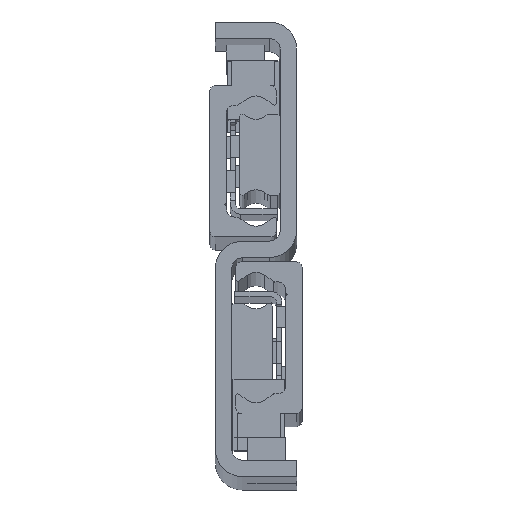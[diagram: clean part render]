
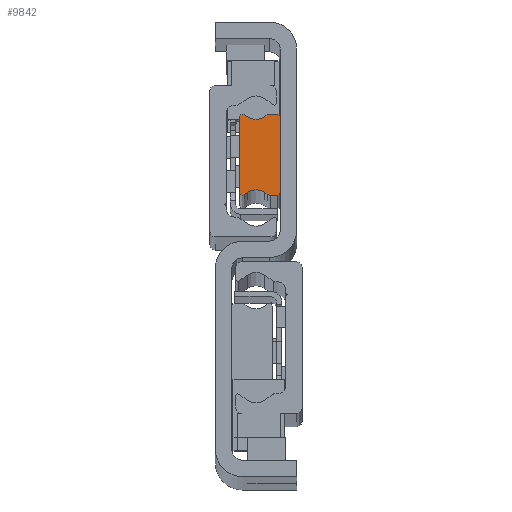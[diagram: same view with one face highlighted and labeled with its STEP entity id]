
A CAD part, top view. The second image highlights one B-rep face of the part: STEP entity #9842.
In plain terms, the highlighted planar face has unit normal (0, 0, 1) as drawn and (0, 0, -1) by its records, which use the part's own axes.
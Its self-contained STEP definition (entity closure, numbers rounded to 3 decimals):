
#32 = CARTESIAN_POINT ( 'NONE',  ( 0.5, 7.5, 0. ) ) ;
#55 = DIRECTION ( 'NONE',  ( 0., 0., 1. ) ) ;
#83 = DIRECTION ( 'NONE',  ( 0., 0., -1. ) ) ;
#393 = EDGE_CURVE ( 'NONE', #2619, #818, #8157, .T. ) ;
#394 = DIRECTION ( 'NONE',  ( -1., 0., 0. ) ) ;
#720 = ORIENTED_EDGE ( 'NONE', *, *, #5635, .F. ) ;
#818 = VERTEX_POINT ( 'NONE', #12456 ) ;
#917 = AXIS2_PLACEMENT_3D ( 'NONE', #10786, #6678, #8044 ) ;
#939 = AXIS2_PLACEMENT_3D ( 'NONE', #8628, #83, #10064 ) ;
#950 = DIRECTION ( 'NONE',  ( -1., 0., 0. ) ) ;
#1281 = CIRCLE ( 'NONE', #4437, 0.5 ) ;
#1397 = ORIENTED_EDGE ( 'NONE', *, *, #2196, .F. ) ;
#1458 = DIRECTION ( 'NONE',  ( 0., 1., 0. ) ) ;
#1675 = VECTOR ( 'NONE', #7612, 1000. ) ;
#1721 = ORIENTED_EDGE ( 'NONE', *, *, #14000, .F. ) ;
#2196 = EDGE_CURVE ( 'NONE', #17350, #8832, #4112, .T. ) ;
#2229 = CARTESIAN_POINT ( 'NONE',  ( 0., 7., 0. ) ) ;
#2276 = CARTESIAN_POINT ( 'NONE',  ( 0., -7., 0. ) ) ;
#2412 = AXIS2_PLACEMENT_3D ( 'NONE', #10162, #55, #18473 ) ;
#2479 = ORIENTED_EDGE ( 'NONE', *, *, #4412, .F. ) ;
#2525 = CARTESIAN_POINT ( 'NONE',  ( 6.677, -7.405, 0. ) ) ;
#2619 = VERTEX_POINT ( 'NONE', #14116 ) ;
#3112 = ORIENTED_EDGE ( 'NONE', *, *, #393, .F. ) ;
#3191 = CARTESIAN_POINT ( 'NONE',  ( 0.5, -7., 0. ) ) ;
#3208 = DIRECTION ( 'NONE',  ( 0., 0., 1. ) ) ;
#3678 = VERTEX_POINT ( 'NONE', #15281 ) ;
#3820 = ORIENTED_EDGE ( 'NONE', *, *, #15814, .F. ) ;
#3952 = CIRCLE ( 'NONE', #10514, 0.5 ) ;
#4112 = LINE ( 'NONE', #4613, #1675 ) ;
#4133 = CARTESIAN_POINT ( 'NONE',  ( 0.5, 7.5, 0. ) ) ;
#4239 = VERTEX_POINT ( 'NONE', #8090 ) ;
#4412 = EDGE_CURVE ( 'NONE', #8285, #15807, #1281, .T. ) ;
#4420 = ORIENTED_EDGE ( 'NONE', *, *, #8113, .F. ) ;
#4437 = AXIS2_PLACEMENT_3D ( 'NONE', #7153, #11267, #17135 ) ;
#4606 = DIRECTION ( 'NONE',  ( 1., 0., 0. ) ) ;
#4613 = CARTESIAN_POINT ( 'NONE',  ( 2.446, 7.319, 0. ) ) ;
#4644 = CARTESIAN_POINT ( 'NONE',  ( 0., -7., 0. ) ) ;
#4709 = EDGE_CURVE ( 'NONE', #4239, #14047, #10362, .T. ) ;
#4757 = CARTESIAN_POINT ( 'NONE',  ( 2.446, 7.319, 0. ) ) ;
#4779 = DIRECTION ( 'NONE',  ( -1., 0., 0. ) ) ;
#4929 = EDGE_CURVE ( 'NONE', #7299, #8453, #8773, .T. ) ;
#4978 = ORIENTED_EDGE ( 'NONE', *, *, #12661, .F. ) ;
#5468 = DIRECTION ( 'NONE',  ( 0., -1., 0. ) ) ;
#5635 = EDGE_CURVE ( 'NONE', #5744, #2619, #6109, .T. ) ;
#5744 = VERTEX_POINT ( 'NONE', #14734 ) ;
#5800 = DIRECTION ( 'NONE',  ( 0.819, -0.574, 0. ) ) ;
#5917 = DIRECTION ( 'NONE',  ( 0., 0., -1. ) ) ;
#5951 = CIRCLE ( 'NONE', #8134, 0.523 ) ;
#6012 = DIRECTION ( 'NONE',  ( 0.819, 0.574, 0. ) ) ;
#6109 = CIRCLE ( 'NONE', #6251, 1. ) ;
#6251 = AXIS2_PLACEMENT_3D ( 'NONE', #7588, #10185, #4779 ) ;
#6499 = ORIENTED_EDGE ( 'NONE', *, *, #4709, .F. ) ;
#6586 = VECTOR ( 'NONE', #15338, 1000. ) ;
#6678 = DIRECTION ( 'NONE',  ( 0., 0., -1. ) ) ;
#7034 = LINE ( 'NONE', #15709, #7698 ) ;
#7153 = CARTESIAN_POINT ( 'NONE',  ( 0.5, 7., 0. ) ) ;
#7299 = VERTEX_POINT ( 'NONE', #14442 ) ;
#7362 = LINE ( 'NONE', #17661, #10698 ) ;
#7588 = CARTESIAN_POINT ( 'NONE',  ( 1.873, -6.5, 0. ) ) ;
#7612 = DIRECTION ( 'NONE',  ( -0.819, 0.574, 0. ) ) ;
#7698 = VECTOR ( 'NONE', #5800, 1000. ) ;
#7929 = CARTESIAN_POINT ( 'NONE',  ( 0.5, -7.5, 0. ) ) ;
#8044 = DIRECTION ( 'NONE',  ( 1., 0., 0. ) ) ;
#8090 = CARTESIAN_POINT ( 'NONE',  ( 6.677, 7.405, 0. ) ) ;
#8113 = EDGE_CURVE ( 'NONE', #15857, #5744, #7362, .T. ) ;
#8134 = AXIS2_PLACEMENT_3D ( 'NONE', #17984, #15125, #950 ) ;
#8157 = LINE ( 'NONE', #13095, #18199 ) ;
#8250 = VERTEX_POINT ( 'NONE', #2525 ) ;
#8285 = VERTEX_POINT ( 'NONE', #32 ) ;
#8287 = CARTESIAN_POINT ( 'NONE',  ( 6.093, 6.997, 0. ) ) ;
#8453 = VERTEX_POINT ( 'NONE', #14622 ) ;
#8497 = EDGE_CURVE ( 'NONE', #818, #3678, #11141, .T. ) ;
#8564 = FACE_OUTER_BOUND ( 'NONE', #17542, .T. ) ;
#8628 = CARTESIAN_POINT ( 'NONE',  ( 6.977, 6.977, 0. ) ) ;
#8773 = LINE ( 'NONE', #11281, #12138 ) ;
#8832 = VERTEX_POINT ( 'NONE', #4757 ) ;
#8939 = LINE ( 'NONE', #4133, #11646 ) ;
#9113 = VECTOR ( 'NONE', #5468, 1000. ) ;
#9184 = AXIS2_PLACEMENT_3D ( 'NONE', #10597, #3208, #13211 ) ;
#9232 = DIRECTION ( 'NONE',  ( 1., 0., 0. ) ) ;
#9611 = EDGE_CURVE ( 'NONE', #15807, #12141, #12472, .T. ) ;
#9774 = DIRECTION ( 'NONE',  ( -1., 0., 0. ) ) ;
#9842 = ADVANCED_FACE ( 'NONE', ( #8564 ), #9935, .T. ) ;
#9935 = PLANE ( 'NONE',  #939 ) ;
#10004 = ORIENTED_EDGE ( 'NONE', *, *, #4929, .F. ) ;
#10064 = DIRECTION ( 'NONE',  ( -1., 0., 0. ) ) ;
#10162 = CARTESIAN_POINT ( 'NONE',  ( 6.977, -6.977, 0. ) ) ;
#10185 = DIRECTION ( 'NONE',  ( 0., 0., 1. ) ) ;
#10362 = LINE ( 'NONE', #16108, #6586 ) ;
#10514 = AXIS2_PLACEMENT_3D ( 'NONE', #3191, #17459, #394 ) ;
#10597 = CARTESIAN_POINT ( 'NONE',  ( 1.873, 6.5, 0. ) ) ;
#10698 = VECTOR ( 'NONE', #9232, 1000. ) ;
#10786 = CARTESIAN_POINT ( 'NONE',  ( 4.5, 9.272, 0. ) ) ;
#10953 = ORIENTED_EDGE ( 'NONE', *, *, #9611, .F. ) ;
#11141 = CIRCLE ( 'NONE', #15217, 2.778 ) ;
#11267 = DIRECTION ( 'NONE',  ( 0., 0., 1. ) ) ;
#11281 = CARTESIAN_POINT ( 'NONE',  ( 7.5, 6.977, 0. ) ) ;
#11354 = CIRCLE ( 'NONE', #917, 2.778 ) ;
#11646 = VECTOR ( 'NONE', #9774, 1000. ) ;
#11757 = ORIENTED_EDGE ( 'NONE', *, *, #14721, .F. ) ;
#11762 = CARTESIAN_POINT ( 'NONE',  ( 4.5, -9.272, 0. ) ) ;
#12138 = VECTOR ( 'NONE', #1458, 1000. ) ;
#12141 = VERTEX_POINT ( 'NONE', #4644 ) ;
#12456 = CARTESIAN_POINT ( 'NONE',  ( 2.907, -6.997, 0. ) ) ;
#12472 = LINE ( 'NONE', #2276, #9113 ) ;
#12661 = EDGE_CURVE ( 'NONE', #8250, #7299, #18061, .T. ) ;
#13095 = CARTESIAN_POINT ( 'NONE',  ( 2.907, -6.997, 0. ) ) ;
#13211 = DIRECTION ( 'NONE',  ( -1., 0., 0. ) ) ;
#13786 = ORIENTED_EDGE ( 'NONE', *, *, #14391, .F. ) ;
#14000 = EDGE_CURVE ( 'NONE', #8832, #14002, #18234, .T. ) ;
#14002 = VERTEX_POINT ( 'NONE', #17701 ) ;
#14047 = VERTEX_POINT ( 'NONE', #8287 ) ;
#14116 = CARTESIAN_POINT ( 'NONE',  ( 2.446, -7.319, 0. ) ) ;
#14391 = EDGE_CURVE ( 'NONE', #12141, #15857, #3952, .T. ) ;
#14442 = CARTESIAN_POINT ( 'NONE',  ( 7.5, -6.977, 0. ) ) ;
#14622 = CARTESIAN_POINT ( 'NONE',  ( 7.5, 6.977, 0. ) ) ;
#14721 = EDGE_CURVE ( 'NONE', #8453, #4239, #5951, .T. ) ;
#14734 = CARTESIAN_POINT ( 'NONE',  ( 1.873, -7.5, 0. ) ) ;
#15125 = DIRECTION ( 'NONE',  ( 0., 0., 1. ) ) ;
#15217 = AXIS2_PLACEMENT_3D ( 'NONE', #11762, #5917, #4606 ) ;
#15281 = CARTESIAN_POINT ( 'NONE',  ( 6.093, -6.997, 0. ) ) ;
#15338 = DIRECTION ( 'NONE',  ( -0.819, -0.574, 0. ) ) ;
#15705 = ORIENTED_EDGE ( 'NONE', *, *, #18360, .F. ) ;
#15709 = CARTESIAN_POINT ( 'NONE',  ( 6.677, -7.405, 0. ) ) ;
#15807 = VERTEX_POINT ( 'NONE', #2229 ) ;
#15814 = EDGE_CURVE ( 'NONE', #14047, #17350, #11354, .T. ) ;
#15857 = VERTEX_POINT ( 'NONE', #7929 ) ;
#16108 = CARTESIAN_POINT ( 'NONE',  ( 6.093, 6.997, 0. ) ) ;
#16184 = EDGE_CURVE ( 'NONE', #3678, #8250, #7034, .T. ) ;
#17116 = ORIENTED_EDGE ( 'NONE', *, *, #8497, .F. ) ;
#17135 = DIRECTION ( 'NONE',  ( -1., 0., 0. ) ) ;
#17350 = VERTEX_POINT ( 'NONE', #17724 ) ;
#17459 = DIRECTION ( 'NONE',  ( 0., 0., 1. ) ) ;
#17542 = EDGE_LOOP ( 'NONE', ( #11757, #10004, #4978, #18251, #17116, #3112, #720, #4420, #13786, #10953, #2479, #15705, #1721, #1397, #3820, #6499 ) ) ;
#17661 = CARTESIAN_POINT ( 'NONE',  ( 1.873, -7.5, 0. ) ) ;
#17701 = CARTESIAN_POINT ( 'NONE',  ( 1.873, 7.5, 0. ) ) ;
#17724 = CARTESIAN_POINT ( 'NONE',  ( 2.907, 6.997, 0. ) ) ;
#17984 = CARTESIAN_POINT ( 'NONE',  ( 6.977, 6.977, 0. ) ) ;
#18061 = CIRCLE ( 'NONE', #2412, 0.523 ) ;
#18199 = VECTOR ( 'NONE', #6012, 1000. ) ;
#18234 = CIRCLE ( 'NONE', #9184, 1. ) ;
#18251 = ORIENTED_EDGE ( 'NONE', *, *, #16184, .F. ) ;
#18360 = EDGE_CURVE ( 'NONE', #14002, #8285, #8939, .T. ) ;
#18473 = DIRECTION ( 'NONE',  ( -1., 0., 0. ) ) ;
